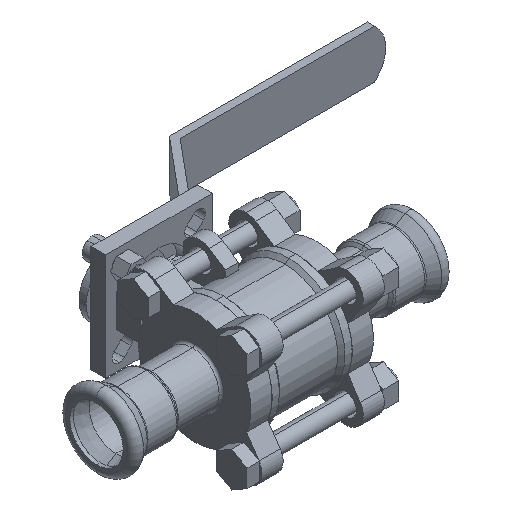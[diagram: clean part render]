
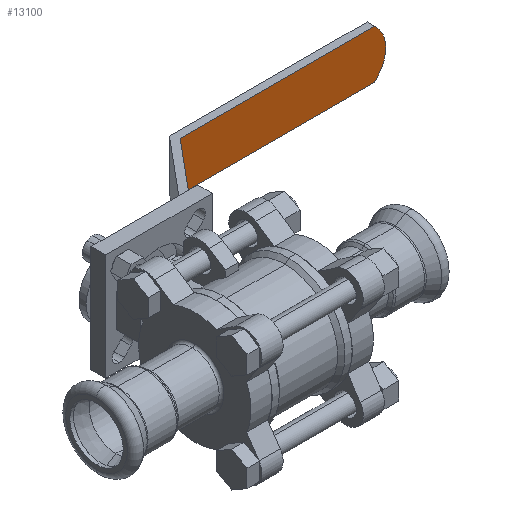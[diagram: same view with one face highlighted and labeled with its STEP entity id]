
A CAD part, isometric view. The second image highlights one B-rep face of the part: STEP entity #13100.
In plain terms, the highlighted planar face has unit normal (0, -1, 0).
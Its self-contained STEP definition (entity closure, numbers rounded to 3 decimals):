
#277 = ORIENTED_EDGE ( 'NONE', *, *, #28098, .T. ) ;
#613 = VERTEX_POINT ( 'NONE', #8039 ) ;
#616 = CARTESIAN_POINT ( 'NONE',  ( 47., 78.25, 10. ) ) ;
#2392 = DIRECTION ( 'NONE',  ( 0., -1., 0. ) ) ;
#2990 = DIRECTION ( 'NONE',  ( 1., 0., 0. ) ) ;
#5042 = DIRECTION ( 'NONE',  ( 0., 0., -1. ) ) ;
#5606 = LINE ( 'NONE', #16056, #11852 ) ;
#7401 = DIRECTION ( 'NONE',  ( 0., 0., -1. ) ) ;
#8039 = CARTESIAN_POINT ( 'NONE',  ( 47., 78.25, -10. ) ) ;
#9617 = VERTEX_POINT ( 'NONE', #18776 ) ;
#10164 = CARTESIAN_POINT ( 'NONE',  ( 47., 78.25, 10. ) ) ;
#11258 = PLANE ( 'NONE',  #25412 ) ;
#11728 = EDGE_CURVE ( 'NONE', #613, #9617, #21461, .T. ) ;
#11852 = VECTOR ( 'NONE', #2990, 1000. ) ;
#12191 = CARTESIAN_POINT ( 'NONE',  ( 127., 78.25, 10. ) ) ;
#12956 = EDGE_CURVE ( 'NONE', #26814, #30222, #5606, .T. ) ;
#13013 = AXIS2_PLACEMENT_3D ( 'NONE', #25280, #2392, #7401 ) ;
#13100 = ADVANCED_FACE ( 'NONE', ( #31676 ), #11258, .F. ) ;
#14160 = CARTESIAN_POINT ( 'NONE',  ( 47., 78.25, -10. ) ) ;
#16056 = CARTESIAN_POINT ( 'NONE',  ( 47., 78.25, 10. ) ) ;
#17694 = DIRECTION ( 'NONE',  ( 0., 0., 1. ) ) ;
#18776 = CARTESIAN_POINT ( 'NONE',  ( 127., 78.25, -10. ) ) ;
#19894 = VECTOR ( 'NONE', #31853, 1000. ) ;
#20052 = CIRCLE ( 'NONE', #13013, 13. ) ;
#21461 = LINE ( 'NONE', #14160, #19894 ) ;
#21534 = ORIENTED_EDGE ( 'NONE', *, *, #11728, .T. ) ;
#22128 = DIRECTION ( 'NONE',  ( 0., 1., 0. ) ) ;
#22628 = CARTESIAN_POINT ( 'NONE',  ( 47., 78.25, 10. ) ) ;
#23277 = EDGE_LOOP ( 'NONE', ( #21534, #28607, #32033, #277 ) ) ;
#25280 = CARTESIAN_POINT ( 'NONE',  ( 118.693, 78.25, 0. ) ) ;
#25412 = AXIS2_PLACEMENT_3D ( 'NONE', #22628, #22128, #17694 ) ;
#26814 = VERTEX_POINT ( 'NONE', #616 ) ;
#27030 = VECTOR ( 'NONE', #5042, 1000. ) ;
#28098 = EDGE_CURVE ( 'NONE', #26814, #613, #33482, .T. ) ;
#28607 = ORIENTED_EDGE ( 'NONE', *, *, #29981, .T. ) ;
#29981 = EDGE_CURVE ( 'NONE', #9617, #30222, #20052, .T. ) ;
#30222 = VERTEX_POINT ( 'NONE', #12191 ) ;
#31676 = FACE_OUTER_BOUND ( 'NONE', #23277, .T. ) ;
#31853 = DIRECTION ( 'NONE',  ( 1., 0., 0. ) ) ;
#32033 = ORIENTED_EDGE ( 'NONE', *, *, #12956, .F. ) ;
#33482 = LINE ( 'NONE', #10164, #27030 ) ;
